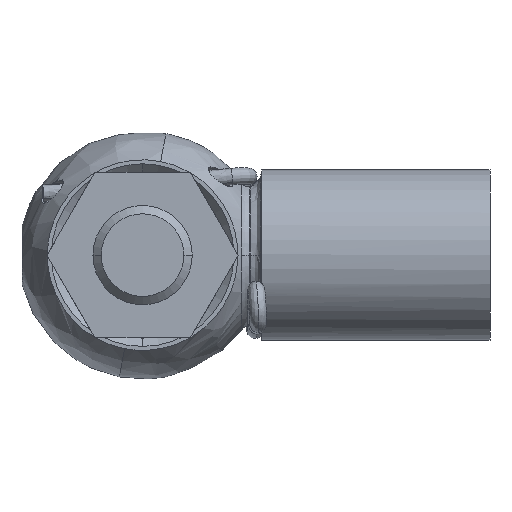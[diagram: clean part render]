
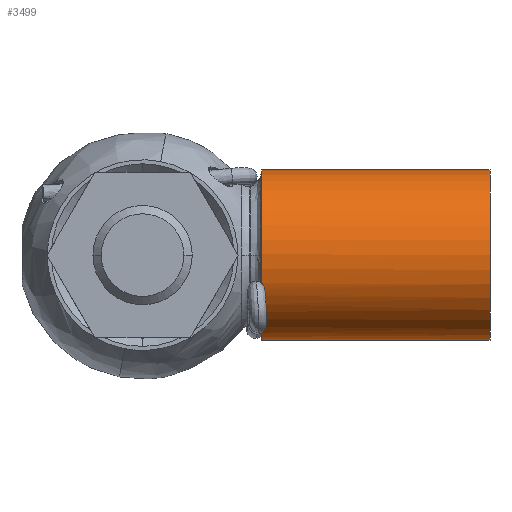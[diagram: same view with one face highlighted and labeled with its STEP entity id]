
A CAD part, front view. The second image highlights one B-rep face of the part: STEP entity #3499.
In plain terms, the highlighted cylindrical face has radius 5.15 mm (diameter 10.3 mm), a partial arc.
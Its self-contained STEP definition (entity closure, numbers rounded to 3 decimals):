
#20 = VERTEX_POINT ( 'NONE', #826 ) ;
#141 = DIRECTION ( 'NONE',  ( 0., 0., -1. ) ) ;
#156 = VERTEX_POINT ( 'NONE', #2395 ) ;
#185 = CARTESIAN_POINT ( 'NONE',  ( 7.265, -3.36, -3.903 ) ) ;
#227 = CARTESIAN_POINT ( 'NONE',  ( 7.203, -4.516, -2.476 ) ) ;
#527 = DIRECTION ( 'NONE',  ( 1., 0., 0. ) ) ;
#562 =( BOUNDED_CURVE ( )  B_SPLINE_CURVE ( 3, ( #8586, #4030, #4062, #185 ),
 .UNSPECIFIED., .F., .T. ) 
 B_SPLINE_CURVE_WITH_KNOTS ( ( 4, 4 ),
 ( 4.071, 4.072 ),
 .UNSPECIFIED. ) 
 CURVE ( )  GEOMETRIC_REPRESENTATION_ITEM ( )  RATIONAL_B_SPLINE_CURVE ( ( 1., 1., 1., 1. ) ) 
 REPRESENTATION_ITEM ( '' )  );
#826 = CARTESIAN_POINT ( 'NONE',  ( 7.203, 0., 5.15 ) ) ;
#911 = ORIENTED_EDGE ( 'NONE', *, *, #9542, .T. ) ;
#996 = CARTESIAN_POINT ( 'NONE',  ( 7.359, -4.675, -2.163 ) ) ;
#1004 = EDGE_CURVE ( 'NONE', #3921, #20, #6481, .T. ) ;
#1027 = AXIS2_PLACEMENT_3D ( 'NONE', #2358, #6140, #9063 ) ;
#1043 = CARTESIAN_POINT ( 'NONE',  ( 7.246, -3.382, -3.884 ) ) ;
#1048 = VERTEX_POINT ( 'NONE', #9368 ) ;
#1079 = CARTESIAN_POINT ( 'NONE',  ( 7.265, -3.36, -3.903 ) ) ;
#1637 = EDGE_CURVE ( 'NONE', #156, #3687, #9703, .T. ) ;
#1744 = CARTESIAN_POINT ( 'NONE',  ( 7.203, -3.423, -3.848 ) ) ;
#1764 = CARTESIAN_POINT ( 'NONE',  ( 7.367, -4.737, -2.022 ) ) ;
#1776 = CARTESIAN_POINT ( 'NONE',  ( 7.203, 0., 0. ) ) ;
#2211 = VECTOR ( 'NONE', #3170, 1000. ) ;
#2358 = CARTESIAN_POINT ( 'NONE',  ( 7.203, 0., 0. ) ) ;
#2395 = CARTESIAN_POINT ( 'NONE',  ( 7.203, -4.516, -2.476 ) ) ;
#2468 = CARTESIAN_POINT ( 'NONE',  ( 7.304, -4.821, -1.814 ) ) ;
#2560 = EDGE_CURVE ( 'NONE', #156, #6230, #9621, .T. ) ;
#2581 = DIRECTION ( 'NONE',  ( 0., 0., 1. ) ) ;
#2852 = ORIENTED_EDGE ( 'NONE', *, *, #8278, .F. ) ;
#3170 = DIRECTION ( 'NONE',  ( -1., 0., 0. ) ) ;
#3171 = CARTESIAN_POINT ( 'NONE',  ( 7.246, -4.547, -2.42 ) ) ;
#3493 = ORIENTED_EDGE ( 'NONE', *, *, #1637, .F. ) ;
#3499 = ADVANCED_FACE ( 'NONE', ( #6317 ), #8107, .T. ) ;
#3668 = ORIENTED_EDGE ( 'NONE', *, *, #2560, .T. ) ;
#3687 = VERTEX_POINT ( 'NONE', #5988 ) ;
#3775 = EDGE_CURVE ( 'NONE', #20, #3687, #9402, .T. ) ;
#3786 = CARTESIAN_POINT ( 'NONE',  ( 16.117, 0., -5.15 ) ) ;
#3814 = CIRCLE ( 'NONE', #6089, 5.15 ) ;
#3839 = CARTESIAN_POINT ( 'NONE',  ( 7.203, 0., -5.15 ) ) ;
#3921 = VERTEX_POINT ( 'NONE', #6113 ) ;
#3943 = CARTESIAN_POINT ( 'NONE',  ( 7.26, -4.844, -1.751 ) ) ;
#3977 = CARTESIAN_POINT ( 'NONE',  ( 7.34, -4.642, -2.232 ) ) ;
#4030 = CARTESIAN_POINT ( 'NONE',  ( 7.223, -3.361, -3.902 ) ) ;
#4062 = CARTESIAN_POINT ( 'NONE',  ( 7.244, -3.361, -3.902 ) ) ;
#4143 = CARTESIAN_POINT ( 'NONE',  ( 21.003, 0., -5.15 ) ) ;
#4633 = ORIENTED_EDGE ( 'NONE', *, *, #1004, .T. ) ;
#4677 = CARTESIAN_POINT ( 'NONE',  ( 7.203, -3.362, -3.901 ) ) ;
#4798 = B_SPLINE_CURVE_WITH_KNOTS ( 'NONE', 3,
 ( #1744, #9382, #1043, #1079 ),
 .UNSPECIFIED., .F., .F.,
 ( 4, 4 ),
 ( 0., 0. ),
 .UNSPECIFIED. ) ;
#4838 = CARTESIAN_POINT ( 'NONE',  ( 16.117, 0., 5.15 ) ) ;
#5049 = EDGE_CURVE ( 'NONE', #6230, #1048, #4798, .T. ) ;
#5139 = VERTEX_POINT ( 'NONE', #4677 ) ;
#5415 = ORIENTED_EDGE ( 'NONE', *, *, #3775, .T. ) ;
#5601 = VERTEX_POINT ( 'NONE', #4143 ) ;
#5637 = ORIENTED_EDGE ( 'NONE', *, *, #7747, .T. ) ;
#5801 = EDGE_LOOP ( 'NONE', ( #7636, #911, #4633, #5415, #3493, #3668, #6093, #2852, #5637 ) ) ;
#5860 = DIRECTION ( 'NONE',  ( 0., 0., -1. ) ) ;
#5988 = CARTESIAN_POINT ( 'NONE',  ( 7.203, -4.861, -1.7 ) ) ;
#6089 = AXIS2_PLACEMENT_3D ( 'NONE', #7899, #527, #5860 ) ;
#6093 = ORIENTED_EDGE ( 'NONE', *, *, #5049, .T. ) ;
#6113 = CARTESIAN_POINT ( 'NONE',  ( 21.003, 0., 5.15 ) ) ;
#6140 = DIRECTION ( 'NONE',  ( 1., 0., 0. ) ) ;
#6187 = VERTEX_POINT ( 'NONE', #3839 ) ;
#6200 = DIRECTION ( 'NONE',  ( 1., 0., 0. ) ) ;
#6230 = VERTEX_POINT ( 'NONE', #8374 ) ;
#6317 = FACE_OUTER_BOUND ( 'NONE', #5801, .T. ) ;
#6364 = CARTESIAN_POINT ( 'NONE',  ( 16.117, 0., 0. ) ) ;
#6481 = LINE ( 'NONE', #4838, #2211 ) ;
#6662 = LINE ( 'NONE', #3786, #7706 ) ;
#6734 = DIRECTION ( 'NONE',  ( -1., 0., 0. ) ) ;
#6860 = AXIS2_PLACEMENT_3D ( 'NONE', #1776, #6200, #141 ) ;
#7015 = CARTESIAN_POINT ( 'NONE',  ( 7.357, -4.768, -1.949 ) ) ;
#7126 = DIRECTION ( 'NONE',  ( -1., 0., 0. ) ) ;
#7456 = AXIS2_PLACEMENT_3D ( 'NONE', #6364, #7126, #2581 ) ;
#7473 = AXIS2_PLACEMENT_3D ( 'NONE', #9708, #8839, #9610 ) ;
#7636 = ORIENTED_EDGE ( 'NONE', *, *, #8773, .F. ) ;
#7706 = VECTOR ( 'NONE', #6734, 1000. ) ;
#7747 = EDGE_CURVE ( 'NONE', #5139, #6187, #3814, .T. ) ;
#7899 = CARTESIAN_POINT ( 'NONE',  ( 7.203, 0., 0. ) ) ;
#8107 = CYLINDRICAL_SURFACE ( 'NONE', #7456, 5.15 ) ;
#8278 = EDGE_CURVE ( 'NONE', #5139, #1048, #562, .T. ) ;
#8374 = CARTESIAN_POINT ( 'NONE',  ( 7.203, -3.423, -3.848 ) ) ;
#8505 = CARTESIAN_POINT ( 'NONE',  ( 7.284, -4.578, -2.36 ) ) ;
#8586 = CARTESIAN_POINT ( 'NONE',  ( 7.203, -3.362, -3.901 ) ) ;
#8773 = EDGE_CURVE ( 'NONE', #5601, #6187, #6662, .T. ) ;
#8839 = DIRECTION ( 'NONE',  ( -1., 0., 0. ) ) ;
#9063 = DIRECTION ( 'NONE',  ( 0., 0., -1. ) ) ;
#9236 = CARTESIAN_POINT ( 'NONE',  ( 7.203, -4.861, -1.7 ) ) ;
#9368 = CARTESIAN_POINT ( 'NONE',  ( 7.265, -3.36, -3.903 ) ) ;
#9382 = CARTESIAN_POINT ( 'NONE',  ( 7.226, -3.404, -3.865 ) ) ;
#9402 = CIRCLE ( 'NONE', #1027, 5.15 ) ;
#9542 = EDGE_CURVE ( 'NONE', #5601, #3921, #9790, .T. ) ;
#9610 = DIRECTION ( 'NONE',  ( 0., 0., -1. ) ) ;
#9621 = CIRCLE ( 'NONE', #6860, 5.15 ) ;
#9703 = B_SPLINE_CURVE_WITH_KNOTS ( 'NONE', 3,
 ( #227, #3171, #8505, #3977, #996, #1764, #7015, #2468, #3943, #9236 ),
 .UNSPECIFIED., .F., .F.,
 ( 4, 2, 2, 2, 4 ),
 ( 0., 0., 0., 0.001, 0.001 ),
 .UNSPECIFIED. ) ;
#9708 = CARTESIAN_POINT ( 'NONE',  ( 21.003, 0., 0. ) ) ;
#9790 = CIRCLE ( 'NONE', #7473, 5.15 ) ;
